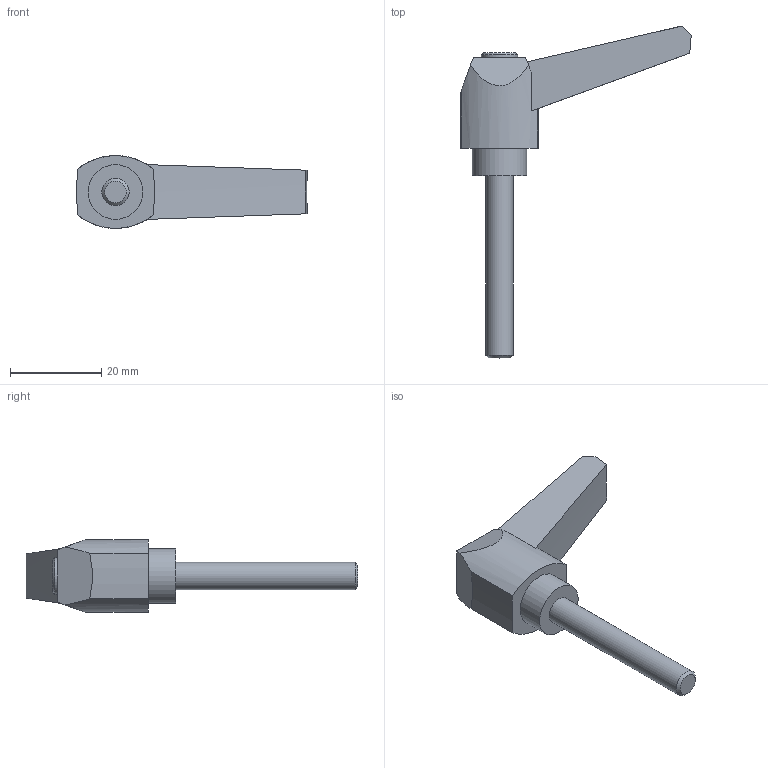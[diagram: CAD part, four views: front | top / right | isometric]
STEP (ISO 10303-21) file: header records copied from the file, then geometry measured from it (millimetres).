
FILE_DESCRIPTION( ( 'STEP AP203' ), '1' );
FILE_NAME( 'C:/Temp/Ganter_Step_05_03_2020/data/2_1/gn_500/gn_500_ms/Adjustable hand lever GN 500-42-M6-40-SW.stp', '2020-03-05T11:26:32', ( 'License CC BY-ND 4.0' ), ( 'CADENAS' ), ' ', 'PARTsolutions', ' ' );
FILE_SCHEMA( ( 'CONFIG_CONTROL_DESIGN' ) );
Length unit declared in the file: millimetre
Products named in the file (1): _Adjustable hand lever GN 500-42-M6-40-SW
Bounding box: 50.59 x 72.85 x 16 mm (x, y, z)
Volume: 9445.5 mm3; surface area: 3766.6 mm2
Topology: 1 solids, 1 shells, 24 faces, 56 edges, 37 vertices
Faces by surface type: plane 11, cylinder 7, cone 6
Full cylindrical faces by diameter (mm): 6 x1, 8 x1, 12 x1
Entity records: 708 total; most frequent: CARTESIAN_POINT 123, DIRECTION 118, ORIENTED_EDGE 100, EDGE_CURVE 50, AXIS2_PLACEMENT_3D 47, VERTEX_POINT 36, EDGE_LOOP 32, FACE_OUTER_BOUND 27
